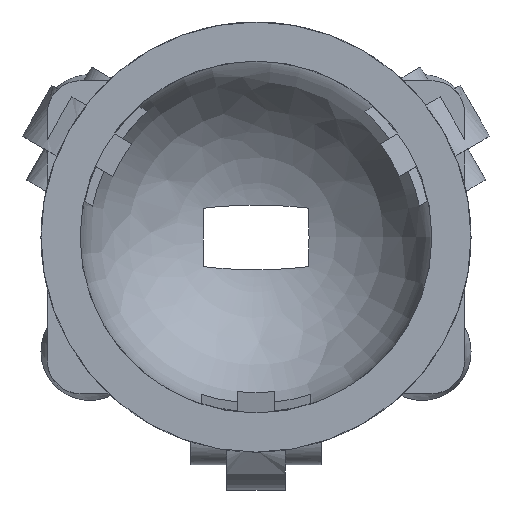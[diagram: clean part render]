
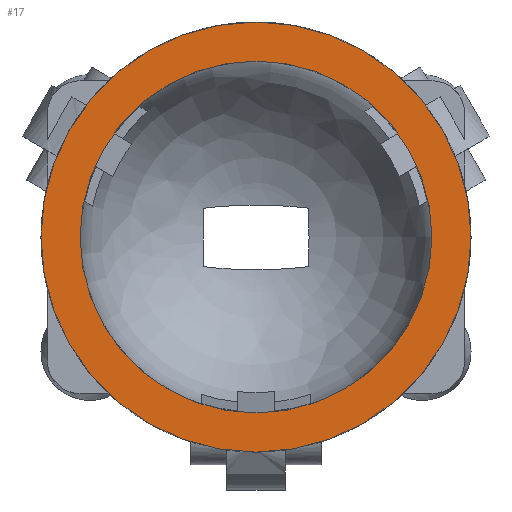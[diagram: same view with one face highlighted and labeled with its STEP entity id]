
A CAD part, top view. The second image highlights one B-rep face of the part: STEP entity #17.
In plain terms, the highlighted planar face has unit normal (0, 0, 1).
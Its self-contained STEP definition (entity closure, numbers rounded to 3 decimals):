
#17 = ADVANCED_FACE('',(#18,#54),#31,.T.);
#18 = FACE_BOUND('',#19,.F.);
#19 = EDGE_LOOP('',(#20));
#20 = ORIENTED_EDGE('',*,*,#21,.T.);
#21 = EDGE_CURVE('',#22,#22,#24,.T.);
#22 = VERTEX_POINT('',#23);
#23 = CARTESIAN_POINT('',(13.5,0.,0.));
#24 = SURFACE_CURVE('',#25,(#30,#42),.PCURVE_S1.);
#25 = CIRCLE('',#26,13.5);
#26 = AXIS2_PLACEMENT_3D('',#27,#28,#29);
#27 = CARTESIAN_POINT('',(0.,0.,0.));
#28 = DIRECTION('',(0.,0.,1.));
#29 = DIRECTION('',(1.,0.,-0.));
#30 = PCURVE('',#31,#36);
#31 = PLANE('',#32);
#32 = AXIS2_PLACEMENT_3D('',#33,#34,#35);
#33 = CARTESIAN_POINT('',(0.,0.,0.));
#34 = DIRECTION('',(0.,0.,1.));
#35 = DIRECTION('',(1.,0.,-0.));
#36 = DEFINITIONAL_REPRESENTATION('',(#37),#41);
#37 = CIRCLE('',#38,13.5);
#38 = AXIS2_PLACEMENT_2D('',#39,#40);
#39 = CARTESIAN_POINT('',(0.,0.));
#40 = DIRECTION('',(1.,-0.));
#41 = ( GEOMETRIC_REPRESENTATION_CONTEXT(2) 
PARAMETRIC_REPRESENTATION_CONTEXT() REPRESENTATION_CONTEXT('2D SPACE',''
  ) );
#42 = PCURVE('',#43,#48);
#43 = CYLINDRICAL_SURFACE('',#44,13.5);
#44 = AXIS2_PLACEMENT_3D('',#45,#46,#47);
#45 = CARTESIAN_POINT('',(0.,0.,-4.));
#46 = DIRECTION('',(0.,0.,1.));
#47 = DIRECTION('',(1.,0.,-0.));
#48 = DEFINITIONAL_REPRESENTATION('',(#49),#53);
#49 = LINE('',#50,#51);
#50 = CARTESIAN_POINT('',(0.,4.));
#51 = VECTOR('',#52,1.);
#52 = DIRECTION('',(1.,0.));
#53 = ( GEOMETRIC_REPRESENTATION_CONTEXT(2) 
PARAMETRIC_REPRESENTATION_CONTEXT() REPRESENTATION_CONTEXT('2D SPACE',''
  ) );
#54 = FACE_BOUND('',#55,.F.);
#55 = EDGE_LOOP('',(#56));
#56 = ORIENTED_EDGE('',*,*,#57,.F.);
#57 = EDGE_CURVE('',#58,#58,#60,.T.);
#58 = VERTEX_POINT('',#59);
#59 = CARTESIAN_POINT('',(16.5,0.,0.));
#60 = SURFACE_CURVE('',#61,(#66,#73),.PCURVE_S1.);
#61 = CIRCLE('',#62,16.5);
#62 = AXIS2_PLACEMENT_3D('',#63,#64,#65);
#63 = CARTESIAN_POINT('',(0.,0.,0.));
#64 = DIRECTION('',(0.,0.,1.));
#65 = DIRECTION('',(1.,0.,-0.));
#66 = PCURVE('',#31,#67);
#67 = DEFINITIONAL_REPRESENTATION('',(#68),#72);
#68 = CIRCLE('',#69,16.5);
#69 = AXIS2_PLACEMENT_2D('',#70,#71);
#70 = CARTESIAN_POINT('',(0.,0.));
#71 = DIRECTION('',(1.,-0.));
#72 = ( GEOMETRIC_REPRESENTATION_CONTEXT(2) 
PARAMETRIC_REPRESENTATION_CONTEXT() REPRESENTATION_CONTEXT('2D SPACE',''
  ) );
#73 = PCURVE('',#74,#79);
#74 = CYLINDRICAL_SURFACE('',#75,16.5);
#75 = AXIS2_PLACEMENT_3D('',#76,#77,#78);
#76 = CARTESIAN_POINT('',(0.,0.,0.));
#77 = DIRECTION('',(-0.,-0.,-1.));
#78 = DIRECTION('',(1.,0.,0.));
#79 = DEFINITIONAL_REPRESENTATION('',(#80),#84);
#80 = LINE('',#81,#82);
#81 = CARTESIAN_POINT('',(-0.,0.));
#82 = VECTOR('',#83,1.);
#83 = DIRECTION('',(-1.,0.));
#84 = ( GEOMETRIC_REPRESENTATION_CONTEXT(2) 
PARAMETRIC_REPRESENTATION_CONTEXT() REPRESENTATION_CONTEXT('2D SPACE',''
  ) );
